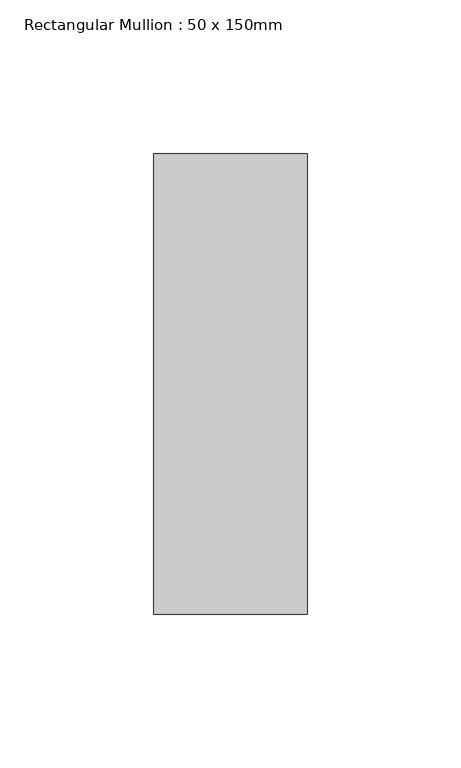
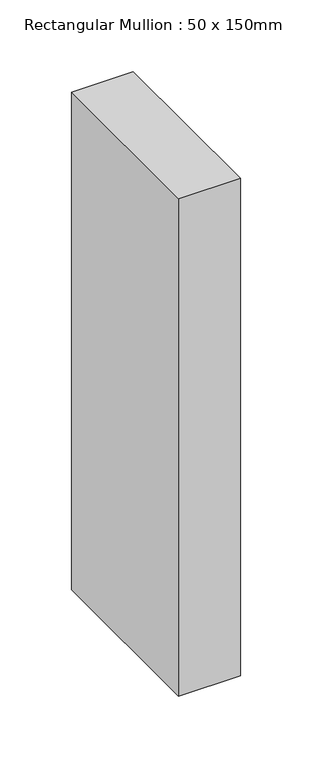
"""IFC4 building model written with IfcOpenShell, lengths in millimetres: member geometry, Rectangular Mullion : 50 x 150mm."""

from ifc_helpers import new_model, si_unit, frame, origin, place, context, project, spatial, polyline, outline, extrude, source, transform, mapped, element, save


def rectangular_mullion_50_x_150mm_129a33a7(model_context):
    return source(origin(), model_context, "Body", "SweptSolid", [
        extrude(outline(polyline([(25.0, 75.0), (25.0, -75.0), (-25.0, -75.0), (-25.0, 75.0), (25.0, 75.0)])), frame((0.0, 0.0, -425.0), z_axis=(0.0, 0.0, 1.0), x_axis=(1.0, 0.0, 0.0)), (0.0, 0.0, 1.0), 425.0),
    ])


if __name__ == "__main__":
    model = new_model("IFC4")
    model_context = context("Model", 3, world=origin())
    ifc_project = project(units=[si_unit("LENGTHUNIT", "METRE", prefix="MILLI")], contexts=[model_context])
    site = spatial("IfcSite", under=ifc_project)
    building = spatial("IfcBuilding", under=site)
    placement = place(None, origin())
    rectangular_mullion_50_x_150mm_shape = rectangular_mullion_50_x_150mm_129a33a7(model_context)
    element("IfcMember", 1, ObjectType="Rectangular Mullion : 50 x 150mm", at=placement, inside=building, context=model_context, shape_type="MappedRepresentation", body=[
        mapped(rectangular_mullion_50_x_150mm_shape, transform((0.0, 0.0, 0.0), x_axis=(1.0, 0.0, 0.0), y_axis=(0.0, 1.0, 0.0), z_axis=(0.0, 0.0, 1.0))),
    ])
    save(model, "model.ifc")
